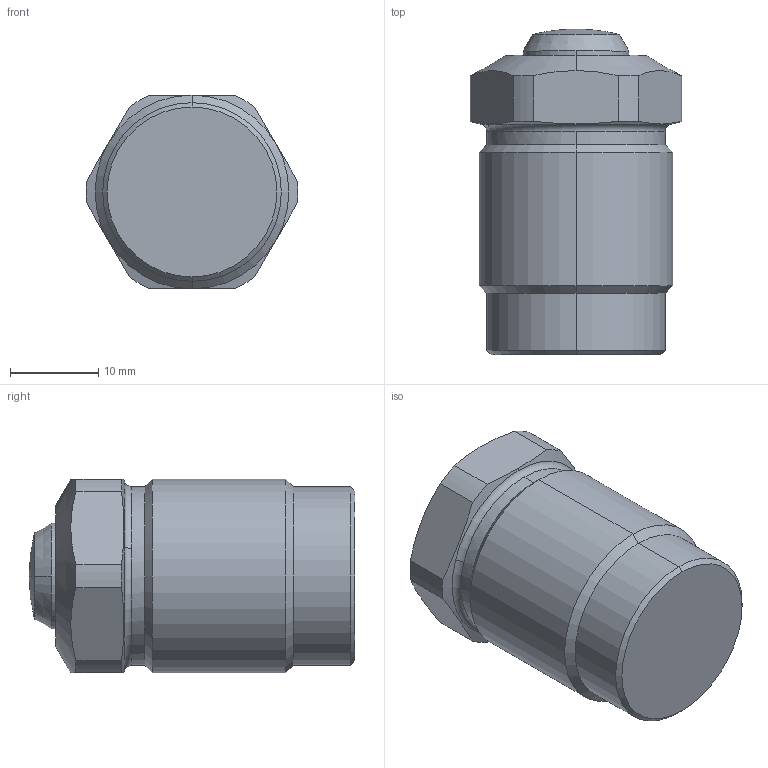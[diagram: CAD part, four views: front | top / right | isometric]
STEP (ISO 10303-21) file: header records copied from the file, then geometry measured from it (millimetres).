
FILE_DESCRIPTION((' '),'2;1');
FILE_NAME( 'CMC03-10R.X_T.stp', '2024-08-27T13:58:37', (' '), ('--- Datakit www.datakit.com---'), ' Datakit CrossCadWare V2024.1 Dec 21 2023', 'Mastercam 2025', ' ');
FILE_SCHEMA(('AUTOMOTIVE_DESIGN { 1 0 10303 214 1 1 1 1 }'));
Length unit declared in the file: millimetre
Products named in the file (1): CMC03-10R
Bounding box: 23.98 x 37 x 22 mm (x, y, z)
Volume: 12634.4 mm3; surface area: 4076.3 mm2
Topology: 2 solids, 2 shells, 42 faces, 102 edges, 63 vertices
Faces by surface type: cylinder 16, cone 12, plane 10, torus 2, sphere 2
Entity records: 1308 total; most frequent: CARTESIAN_POINT 298, DIRECTION 220, ORIENTED_EDGE 200, EDGE_CURVE 100, AXIS2_PLACEMENT_3D 93, VERTEX_POINT 63, CIRCLE 50, EDGE_LOOP 43
